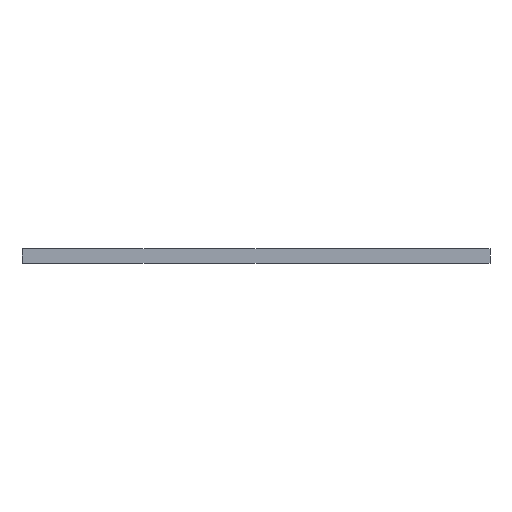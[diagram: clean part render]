
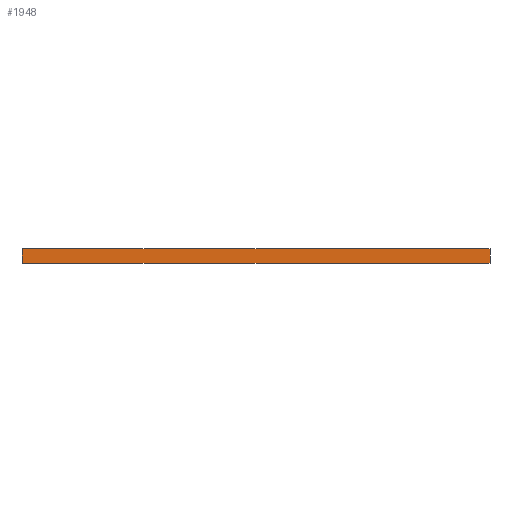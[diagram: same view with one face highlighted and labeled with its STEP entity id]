
A CAD part, front view. The second image highlights one B-rep face of the part: STEP entity #1948.
In plain terms, the highlighted planar face has unit normal (0, -1, 0).
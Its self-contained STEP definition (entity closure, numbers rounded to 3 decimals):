
#33 = VERTEX_POINT('',#34);
#34 = CARTESIAN_POINT('',(103.22,60.,43.5));
#42 = EDGE_CURVE('',#33,#43,#45,.T.);
#43 = VERTEX_POINT('',#44);
#44 = CARTESIAN_POINT('',(166.7,60.,43.5));
#45 = LINE('',#46,#47);
#46 = CARTESIAN_POINT('',(103.22,60.,43.5));
#47 = VECTOR('',#48,1.);
#48 = DIRECTION('',(1.,0.,0.));
#848 = EDGE_CURVE('',#849,#33,#851,.T.);
#849 = VERTEX_POINT('',#850);
#850 = CARTESIAN_POINT('',(103.22,60.,41.5));
#851 = LINE('',#852,#853);
#852 = CARTESIAN_POINT('',(103.22,60.,41.5));
#853 = VECTOR('',#854,1.);
#854 = DIRECTION('',(0.,0.,1.));
#1929 = EDGE_CURVE('',#1930,#43,#1932,.T.);
#1930 = VERTEX_POINT('',#1931);
#1931 = CARTESIAN_POINT('',(166.7,60.,41.5));
#1932 = LINE('',#1933,#1934);
#1933 = CARTESIAN_POINT('',(166.7,60.,41.5));
#1934 = VECTOR('',#1935,1.);
#1935 = DIRECTION('',(0.,0.,1.));
#1948 = ADVANCED_FACE('',(#1949),#1960,.F.);
#1949 = FACE_BOUND('',#1950,.F.);
#1950 = EDGE_LOOP('',(#1951,#1957,#1958,#1959));
#1951 = ORIENTED_EDGE('',*,*,#1952,.F.);
#1952 = EDGE_CURVE('',#849,#1930,#1953,.T.);
#1953 = LINE('',#1954,#1955);
#1954 = CARTESIAN_POINT('',(103.22,60.,41.5));
#1955 = VECTOR('',#1956,1.);
#1956 = DIRECTION('',(1.,0.,0.));
#1957 = ORIENTED_EDGE('',*,*,#848,.T.);
#1958 = ORIENTED_EDGE('',*,*,#42,.T.);
#1959 = ORIENTED_EDGE('',*,*,#1929,.F.);
#1960 = PLANE('',#1961);
#1961 = AXIS2_PLACEMENT_3D('',#1962,#1963,#1964);
#1962 = CARTESIAN_POINT('',(103.22,60.,41.5));
#1963 = DIRECTION('',(0.,1.,0.));
#1964 = DIRECTION('',(0.,0.,1.));
